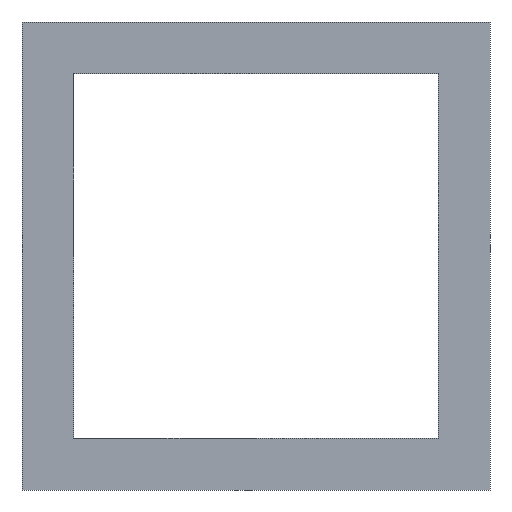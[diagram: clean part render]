
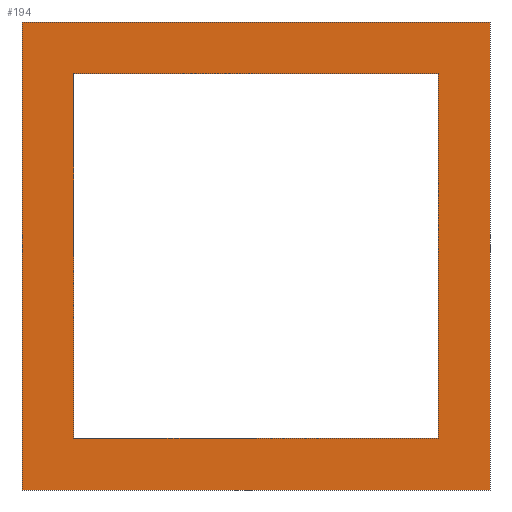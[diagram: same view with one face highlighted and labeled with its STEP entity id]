
A CAD part, front view. The second image highlights one B-rep face of the part: STEP entity #194.
In plain terms, the highlighted planar face has unit normal (0, -1, 0).
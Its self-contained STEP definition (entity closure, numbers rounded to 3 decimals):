
#16=FACE_BOUND('',#38,.T.);
#26=FACE_OUTER_BOUND('',#37,.T.);
#37=EDGE_LOOP('',(#167,#168,#169,#170));
#38=EDGE_LOOP('',(#171,#172,#173,#174));
#39=LINE('',#377,#63);
#43=LINE('',#385,#67);
#46=LINE('',#391,#70);
#49=LINE('',#396,#73);
#51=LINE('',#401,#75);
#55=LINE('',#409,#79);
#58=LINE('',#415,#82);
#61=LINE('',#420,#85);
#63=VECTOR('',#331,10.);
#67=VECTOR('',#337,10.);
#70=VECTOR('',#342,10.);
#73=VECTOR('',#347,10.);
#75=VECTOR('',#351,10.);
#79=VECTOR('',#357,10.);
#82=VECTOR('',#362,10.);
#85=VECTOR('',#367,10.);
#87=VERTEX_POINT('',#375);
#88=VERTEX_POINT('',#376);
#91=VERTEX_POINT('',#384);
#93=VERTEX_POINT('',#390);
#95=VERTEX_POINT('',#399);
#96=VERTEX_POINT('',#400);
#99=VERTEX_POINT('',#408);
#101=VERTEX_POINT('',#414);
#103=EDGE_CURVE('',#87,#88,#39,.T.);
#107=EDGE_CURVE('',#91,#87,#43,.T.);
#110=EDGE_CURVE('',#93,#91,#46,.T.);
#113=EDGE_CURVE('',#88,#93,#49,.T.);
#115=EDGE_CURVE('',#95,#96,#51,.T.);
#119=EDGE_CURVE('',#96,#99,#55,.T.);
#122=EDGE_CURVE('',#99,#101,#58,.T.);
#125=EDGE_CURVE('',#101,#95,#61,.T.);
#167=ORIENTED_EDGE('',*,*,#125,.T.);
#168=ORIENTED_EDGE('',*,*,#115,.T.);
#169=ORIENTED_EDGE('',*,*,#119,.T.);
#170=ORIENTED_EDGE('',*,*,#122,.T.);
#171=ORIENTED_EDGE('',*,*,#113,.F.);
#172=ORIENTED_EDGE('',*,*,#103,.F.);
#173=ORIENTED_EDGE('',*,*,#107,.F.);
#174=ORIENTED_EDGE('',*,*,#110,.F.);
#184=PLANE('',#326);
#194=ADVANCED_FACE('',(#26,#16),#184,.F.);
#326=AXIS2_PLACEMENT_3D('',#423,#371,#372);
#331=DIRECTION('',(0.,0.,1.));
#337=DIRECTION('',(1.,0.,0.));
#342=DIRECTION('',(0.,0.,-1.));
#347=DIRECTION('',(-1.,0.,0.));
#351=DIRECTION('',(0.,0.,-1.));
#357=DIRECTION('',(1.,0.,0.));
#362=DIRECTION('',(0.,0.,1.));
#367=DIRECTION('',(-1.,0.,0.));
#371=DIRECTION('center_axis',(0.,1.,0.));
#372=DIRECTION('ref_axis',(1.,0.,0.));
#375=CARTESIAN_POINT('',(8.,0.,1.));
#376=CARTESIAN_POINT('',(8.,0.,8.));
#377=CARTESIAN_POINT('',(8.,0.,1.));
#384=CARTESIAN_POINT('',(1.,0.,1.));
#385=CARTESIAN_POINT('',(1.,0.,1.));
#390=CARTESIAN_POINT('',(1.,0.,8.));
#391=CARTESIAN_POINT('',(1.,0.,8.));
#396=CARTESIAN_POINT('',(8.,0.,8.));
#399=CARTESIAN_POINT('',(0.,0.,9.));
#400=CARTESIAN_POINT('',(0.,0.,0.));
#401=CARTESIAN_POINT('',(0.,0.,9.));
#408=CARTESIAN_POINT('',(9.,0.,0.));
#409=CARTESIAN_POINT('',(0.,0.,0.));
#414=CARTESIAN_POINT('',(9.,0.,9.));
#415=CARTESIAN_POINT('',(9.,0.,0.));
#420=CARTESIAN_POINT('',(9.,0.,9.));
#423=CARTESIAN_POINT('Origin',(4.5,0.,4.5));
